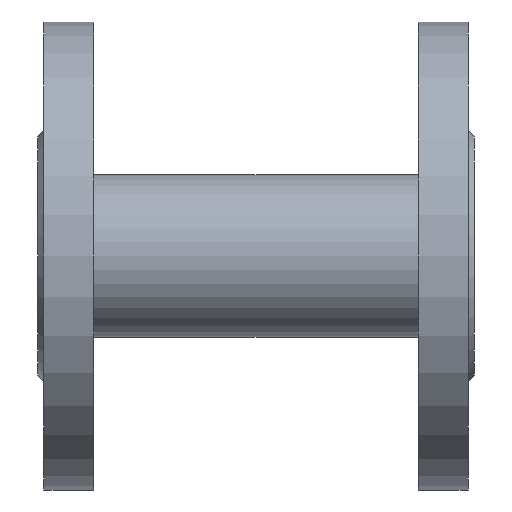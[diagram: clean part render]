
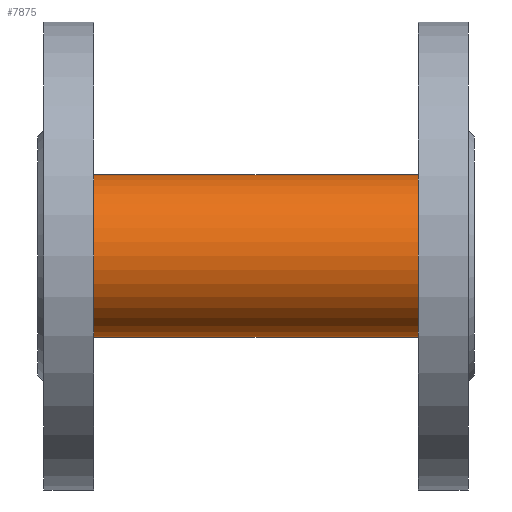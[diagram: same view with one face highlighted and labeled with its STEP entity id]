
A CAD part, front view. The second image highlights one B-rep face of the part: STEP entity #7875.
In plain terms, the highlighted cylindrical face has radius 26 mm (diameter 52 mm), a full revolution.
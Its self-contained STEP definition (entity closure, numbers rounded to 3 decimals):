
#1425=LINE('',#36155,#3405);
#1426=LINE('',#36161,#3406);
#3405=VECTOR('',#29541,1.);
#3406=VECTOR('',#29546,1.);
#5624=ELLIPSE('',#27307,36.77,26.);
#5625=ELLIPSE('',#27308,36.77,26.);
#5626=ELLIPSE('',#27309,36.77,26.);
#5627=ELLIPSE('',#27310,36.77,26.);
#7422=CYLINDRICAL_SURFACE('',#27313,26.);
#7875=ADVANCED_FACE('',(#10308,#10309,#10310),#7422,.T.);
#10308=FACE_BOUND('',#11135,.T.);
#10309=FACE_BOUND('',#11136,.T.);
#10310=FACE_BOUND('',#11137,.T.);
#11135=EDGE_LOOP('',(#13187,#13188,#13189,#13190,#13191,#13192));
#11136=EDGE_LOOP('',(#13193));
#11137=EDGE_LOOP('',(#13194));
#13187=ORIENTED_EDGE('',*,*,#22823,.T.);
#13188=ORIENTED_EDGE('',*,*,#22824,.T.);
#13189=ORIENTED_EDGE('',*,*,#22825,.T.);
#13190=ORIENTED_EDGE('',*,*,#22826,.T.);
#13191=ORIENTED_EDGE('',*,*,#22827,.T.);
#13192=ORIENTED_EDGE('',*,*,#22828,.T.);
#13193=ORIENTED_EDGE('',*,*,#22829,.F.);
#13194=ORIENTED_EDGE('',*,*,#22830,.F.);
#20377=VERTEX_POINT('',#36151);
#20378=VERTEX_POINT('',#36152);
#20379=VERTEX_POINT('',#36154);
#20380=VERTEX_POINT('',#36156);
#20381=VERTEX_POINT('',#36158);
#20382=VERTEX_POINT('',#36160);
#20383=VERTEX_POINT('',#36163);
#20384=VERTEX_POINT('',#36165);
#22823=EDGE_CURVE('',#20377,#20378,#5624,.T.);
#22824=EDGE_CURVE('',#20378,#20379,#5625,.T.);
#22825=EDGE_CURVE('',#20379,#20380,#1425,.T.);
#22826=EDGE_CURVE('',#20380,#20381,#5626,.T.);
#22827=EDGE_CURVE('',#20381,#20382,#5627,.T.);
#22828=EDGE_CURVE('',#20382,#20377,#1426,.T.);
#22829=EDGE_CURVE('',#20383,#20383,#26425,.T.);
#22830=EDGE_CURVE('',#20384,#20384,#26426,.T.);
#26425=CIRCLE('',#27311,26.);
#26426=CIRCLE('',#27312,26.);
#27307=AXIS2_PLACEMENT_3D('',#36150,#29537,#29538);
#27308=AXIS2_PLACEMENT_3D('',#36153,#29539,#29540);
#27309=AXIS2_PLACEMENT_3D('',#36157,#29542,#29543);
#27310=AXIS2_PLACEMENT_3D('',#36159,#29544,#29545);
#27311=AXIS2_PLACEMENT_3D('',#36162,#29547,#29548);
#27312=AXIS2_PLACEMENT_3D('',#36164,#29549,#29550);
#27313=AXIS2_PLACEMENT_3D('',#36166,#29551,#29552);
#29537=DIRECTION('',(-0.707,-0.707,0.));
#29538=DIRECTION('',(-0.707,0.707,0.));
#29539=DIRECTION('',(-0.707,-0.707,0.));
#29540=DIRECTION('',(-0.707,0.707,0.));
#29541=DIRECTION('',(1.,0.,0.));
#29542=DIRECTION('',(0.707,-0.707,0.));
#29543=DIRECTION('',(-0.707,-0.707,0.));
#29544=DIRECTION('',(0.707,-0.707,0.));
#29545=DIRECTION('',(-0.707,-0.707,0.));
#29546=DIRECTION('',(-1.,0.,0.));
#29547=DIRECTION('',(1.,0.,0.));
#29548=DIRECTION('',(0.,0.,1.));
#29549=DIRECTION('',(-1.,0.,0.));
#29550=DIRECTION('',(0.,0.,-1.));
#29551=DIRECTION('',(-1.,0.,0.));
#29552=DIRECTION('',(0.,0.,1.));
#36150=CARTESIAN_POINT('',(45.,-22.49,180.5));
#36151=CARTESIAN_POINT('',(20.,2.51,187.641));
#36152=CARTESIAN_POINT('',(19.,3.51,180.5));
#36153=CARTESIAN_POINT('',(45.,-22.49,180.5));
#36154=CARTESIAN_POINT('',(20.,2.51,173.359));
#36155=CARTESIAN_POINT('',(20.,2.51,173.359));
#36156=CARTESIAN_POINT('',(70.,2.51,173.359));
#36157=CARTESIAN_POINT('',(45.,-22.49,180.5));
#36158=CARTESIAN_POINT('',(71.,3.51,180.5));
#36159=CARTESIAN_POINT('',(45.,-22.49,180.5));
#36160=CARTESIAN_POINT('',(70.,2.51,187.641));
#36161=CARTESIAN_POINT('',(70.,2.51,187.641));
#36162=CARTESIAN_POINT('',(97.,-22.49,180.5));
#36163=CARTESIAN_POINT('',(97.,-22.49,206.5));
#36164=CARTESIAN_POINT('',(-7.,-22.49,180.5));
#36165=CARTESIAN_POINT('',(-7.,-22.49,154.5));
#36166=CARTESIAN_POINT('',(76.,-22.49,180.5));
